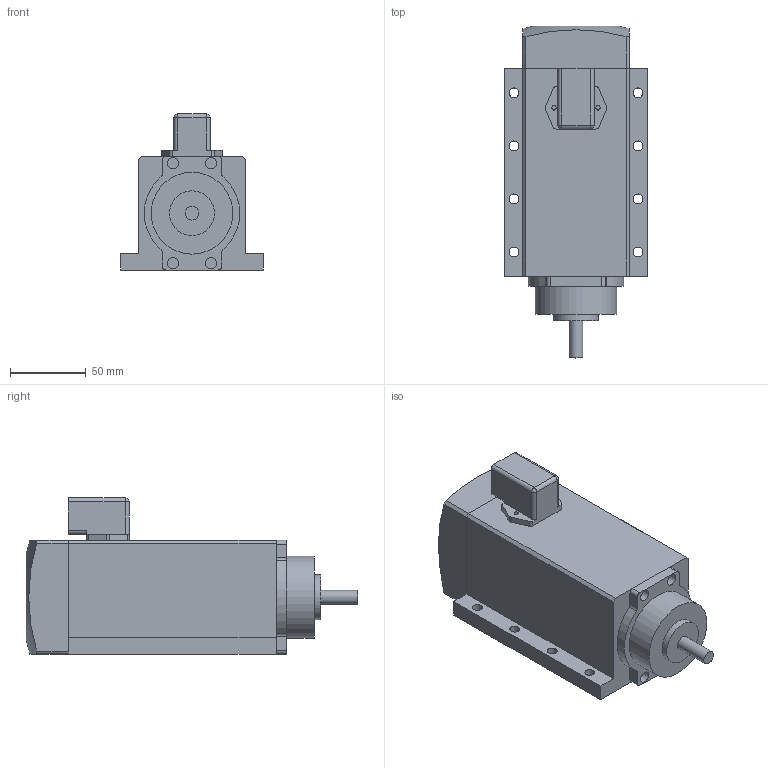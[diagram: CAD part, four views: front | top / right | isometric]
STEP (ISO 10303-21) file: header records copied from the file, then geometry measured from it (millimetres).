
FILE_DESCRIPTION(/* description */ (''),/* implementation_level */ '2;1');
FILE_NAME(/* name */ 'C:/Users/jakob/dev/fablabverket/students/100/web/projects/diy_cnc/source/step/Spindle.step',/* time_stamp */ '2017-05-31T20:13:57+02:00',/* author */ (''),/* organization */ (''),/* preprocessor_version */ 'ST-DEVELOPER v16.13',/* originating_system */ 'Autodesk Translation Framework v6.1.1.50',/* authorisation */ '');
FILE_SCHEMA (('AUTOMOTIVE_DESIGN { 1 0 10303 214 3 1 1 }'));
Length unit declared in the file: millimetre
Products named in the file (1): Spindle v4
Bounding box: 94 x 219 x 103 mm (x, y, z)
Volume: 990561.2 mm3; surface area: 95323.4 mm2
Topology: 4 solids, 4 shells, 90 faces, 229 edges, 151 vertices
Faces by surface type: plane 45, cylinder 42, sphere 3
Full cylindrical faces by diameter (mm): 3 x2, 6.5 x8, 7.5 x4, 9 x1, 29.5 x1, 54 x1
Entity records: 2770 total; most frequent: CARTESIAN_POINT 482, DIRECTION 481, ORIENTED_EDGE 424, EDGE_CURVE 212, AXIS2_PLACEMENT_3D 180, VERTEX_POINT 151, EDGE_LOOP 139, LINE 121
